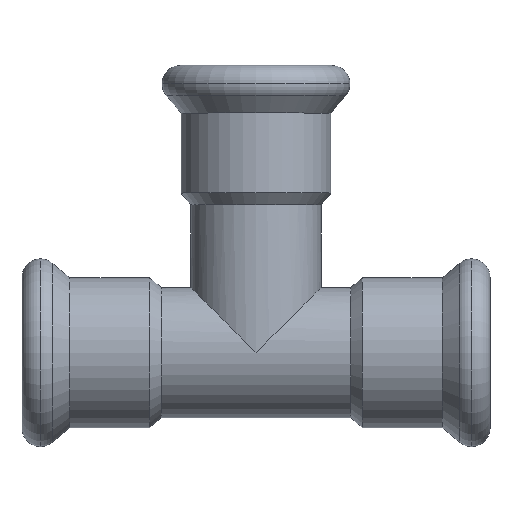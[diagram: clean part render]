
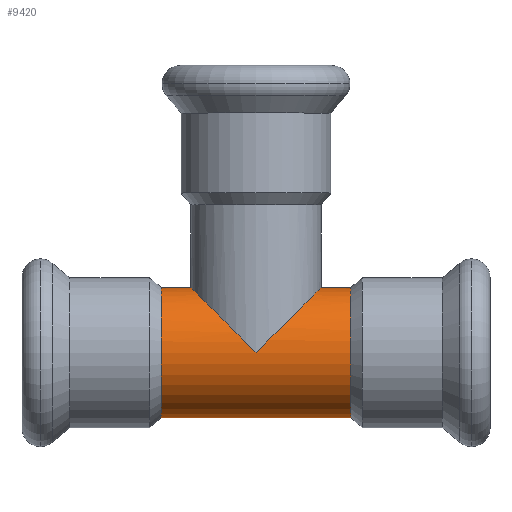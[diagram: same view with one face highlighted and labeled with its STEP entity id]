
A CAD part, top view. The second image highlights one B-rep face of the part: STEP entity #9420.
In plain terms, the highlighted cylindrical face has radius 11 mm (diameter 22 mm), a partial arc.
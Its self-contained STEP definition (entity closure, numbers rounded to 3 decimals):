
#5310=CARTESIAN_POINT('',(-335.291,5.435,0.));
#5320=VERTEX_POINT('',#5310);
#5400=CARTESIAN_POINT('',(-335.291,27.435,
0.));
#5410=VERTEX_POINT('',#5400);
#5440=CARTESIAN_POINT('',(-335.291,16.435,0.));
#5450=DIRECTION('',(-1.,0.,0.));
#5460=DIRECTION('',(0.,-1.,0.));
#5470=AXIS2_PLACEMENT_3D('',#5440,#5450,#5460);
#5480=CIRCLE('',#5470,11.);
#5490=EDGE_CURVE('',#5320,#5410,#5480,.T.);
#6190=CARTESIAN_POINT('',(-330.291,27.435,0.));
#6200=VERTEX_POINT('',#6190);
#6290=CARTESIAN_POINT('',(-308.291,27.435,
0.));
#6300=VERTEX_POINT('',#6290);
#6330=CARTESIAN_POINT('',(-319.291,16.435,0.));
#6340=DIRECTION('',(-0.707,0.707,0.));
#6350=DIRECTION('',(0.707,0.707,0.));
#6360=AXIS2_PLACEMENT_3D('',#6330,#6340,#6350);
#6370=ELLIPSE('',#6360,15.556,11.);
#6380=CARTESIAN_POINT('',(-319.291,16.435,11.));
#6390=VERTEX_POINT('',#6380);
#6400=EDGE_CURVE('',#6390,#6300,#6370,.T.);
#6420=CARTESIAN_POINT('',(-319.291,16.435,0.));
#6430=DIRECTION('',(0.707,0.707,0.));
#6440=DIRECTION('',(-0.707,0.707,0.));
#6450=AXIS2_PLACEMENT_3D('',#6420,#6430,#6440);
#6460=ELLIPSE('',#6450,15.556,11.);
#6470=EDGE_CURVE('',#6200,#6390,#6460,.T.);
#7890=CARTESIAN_POINT('',(-303.291,27.435,
0.));
#7900=VERTEX_POINT('',#7890);
#7990=CARTESIAN_POINT('',(-303.291,5.435,0.));
#8000=VERTEX_POINT('',#7990);
#8030=CARTESIAN_POINT('',(-303.291,16.435,0.));
#8040=DIRECTION('',(-1.,0.,0.));
#8050=DIRECTION('',(0.,1.,0.));
#8060=AXIS2_PLACEMENT_3D('',#8030,#8040,#8050);
#8070=CIRCLE('',#8060,11.);
#8080=EDGE_CURVE('',#8000,#7900,#8070,.T.);
#9170=CARTESIAN_POINT('',(-335.291,16.435,0.));
#9180=DIRECTION('',(-1.,0.,0.));
#9190=DIRECTION('',(0.,1.,0.));
#9200=AXIS2_PLACEMENT_3D('',#9170,#9180,#9190);
#9210=CYLINDRICAL_SURFACE('',#9200,11.);
#9220=CARTESIAN_POINT('',(-335.291,5.435,
0.));
#9230=DIRECTION('',(-1.,0.,0.));
#9240=VECTOR('',#9230,1.);
#9250=LINE('',#9220,#9240);
#9260=EDGE_CURVE('',#8000,#5320,#9250,.T.);
#9270=ORIENTED_EDGE('',*,*,#9260,.F.);
#9280=ORIENTED_EDGE('',*,*,#5490,.F.);
#9290=CARTESIAN_POINT('',(-335.291,27.435,0.));
#9300=DIRECTION('',(-1.,0.,0.));
#9310=VECTOR('',#9300,1.);
#9320=LINE('',#9290,#9310);
#9330=EDGE_CURVE('',#6200,#5410,#9320,.T.);
#9340=ORIENTED_EDGE('',*,*,#9330,.T.);
#9350=ORIENTED_EDGE('',*,*,#6470,.F.);
#9360=ORIENTED_EDGE('',*,*,#6400,.F.);
#9370=EDGE_CURVE('',#7900,#6300,#9320,.T.);
#9380=ORIENTED_EDGE('',*,*,#9370,.T.);
#9390=ORIENTED_EDGE('',*,*,#8080,.T.);
#9400=EDGE_LOOP('',(#9390,#9380,#9360,#9350,#9340,#9280,#9270));
#9410=FACE_OUTER_BOUND('',#9400,.T.);
#9420=ADVANCED_FACE('',(#9410),#9210,.T.);
